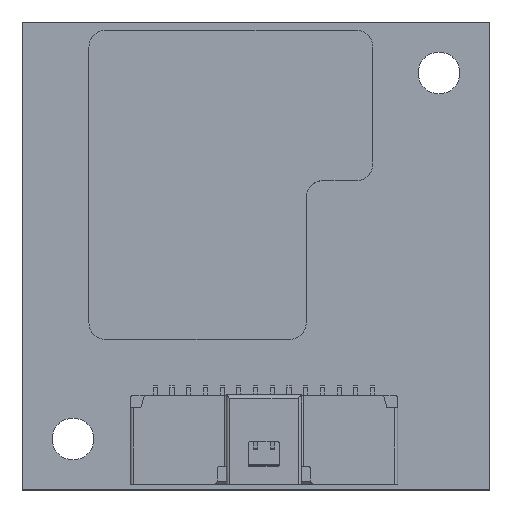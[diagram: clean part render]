
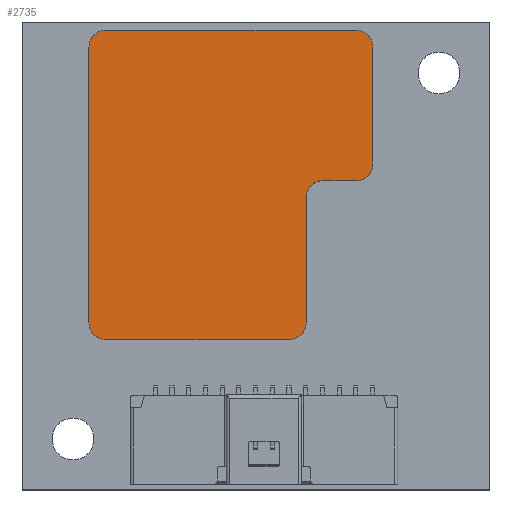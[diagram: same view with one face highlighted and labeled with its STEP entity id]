
A CAD part, top view. The second image highlights one B-rep face of the part: STEP entity #2735.
In plain terms, the highlighted planar face has unit normal (0, 0, 1).
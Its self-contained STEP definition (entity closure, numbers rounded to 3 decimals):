
#166 = CARTESIAN_POINT ( 'NONE',  ( -21.5, 26., 1.4 ) ) ;
#308 = CARTESIAN_POINT ( 'NONE',  ( -8.5, 16., 1.4 ) ) ;
#1109 = CARTESIAN_POINT ( 'NONE',  ( -8.5, 17., 1.4 ) ) ;
#1260 = AXIS2_PLACEMENT_3D ( 'NONE', #9854, #21824, #16524 ) ;
#1344 = AXIS2_PLACEMENT_3D ( 'NONE', #4643, #13028, #18270 ) ;
#1451 = ORIENTED_EDGE ( 'NONE', *, *, #12410, .T. ) ;
#1463 = ORIENTED_EDGE ( 'NONE', *, *, #18852, .T. ) ;
#1765 = DIRECTION ( 'NONE',  ( 0., 0., 1. ) ) ;
#2072 = CIRCLE ( 'NONE', #1344, 1. ) ;
#2282 = CARTESIAN_POINT ( 'NONE',  ( -9.5, 16., 1.4 ) ) ;
#2461 = DIRECTION ( 'NONE',  ( 1., 0., 0. ) ) ;
#2474 = DIRECTION ( 'NONE',  ( 1., 0., 0. ) ) ;
#2586 = DIRECTION ( 'NONE',  ( 0., 0., 1. ) ) ;
#2735 = ADVANCED_FACE ( 'NONE', ( #6196 ), #4394, .T. ) ;
#3442 = CARTESIAN_POINT ( 'NONE',  ( -10.5, 7.5, 1.4 ) ) ;
#3871 = CARTESIAN_POINT ( 'NONE',  ( -22.5, 7.5, 1.4 ) ) ;
#3968 = CARTESIAN_POINT ( 'NONE',  ( -5.5, 17., 1.4 ) ) ;
#4270 = CARTESIAN_POINT ( 'NONE',  ( 0., 0., 1.4 ) ) ;
#4394 = PLANE ( 'NONE',  #12141 ) ;
#4643 = CARTESIAN_POINT ( 'NONE',  ( -21.5, 8.5, 1.4 ) ) ;
#4679 = DIRECTION ( 'NONE',  ( 1., 0., 0. ) ) ;
#4781 = ORIENTED_EDGE ( 'NONE', *, *, #18940, .T. ) ;
#4987 = VERTEX_POINT ( 'NONE', #14453 ) ;
#5133 = LINE ( 'NONE', #9868, #6413 ) ;
#5781 = ORIENTED_EDGE ( 'NONE', *, *, #19628, .T. ) ;
#6196 = FACE_OUTER_BOUND ( 'NONE', #16120, .T. ) ;
#6199 = DIRECTION ( 'NONE',  ( 0., -1., 0. ) ) ;
#6391 = EDGE_CURVE ( 'NONE', #15720, #6953, #10362, .T. ) ;
#6413 = VECTOR ( 'NONE', #10293, 1000. ) ;
#6554 = ORIENTED_EDGE ( 'NONE', *, *, #21668, .T. ) ;
#6881 = VERTEX_POINT ( 'NONE', #1109 ) ;
#6953 = VERTEX_POINT ( 'NONE', #20000 ) ;
#7034 = EDGE_CURVE ( 'NONE', #18107, #21703, #8493, .T. ) ;
#7475 = CARTESIAN_POINT ( 'NONE',  ( -5.5, 26., 1.4 ) ) ;
#7691 = CIRCLE ( 'NONE', #1260, 1. ) ;
#7726 = ORIENTED_EDGE ( 'NONE', *, *, #14242, .T. ) ;
#7748 = VECTOR ( 'NONE', #10817, 1000. ) ;
#8012 = VERTEX_POINT ( 'NONE', #19586 ) ;
#8135 = DIRECTION ( 'NONE',  ( 1., 0., 0. ) ) ;
#8493 = CIRCLE ( 'NONE', #13595, 1. ) ;
#8575 = VERTEX_POINT ( 'NONE', #166 ) ;
#8589 = ORIENTED_EDGE ( 'NONE', *, *, #7034, .T. ) ;
#8885 = CARTESIAN_POINT ( 'NONE',  ( -9.5, 7.5, 1.4 ) ) ;
#9022 = AXIS2_PLACEMENT_3D ( 'NONE', #308, #14351, #21112 ) ;
#9029 = VERTEX_POINT ( 'NONE', #14512 ) ;
#9445 = ORIENTED_EDGE ( 'NONE', *, *, #16083, .T. ) ;
#9854 = CARTESIAN_POINT ( 'NONE',  ( -6.5, 18., 1.4 ) ) ;
#9868 = CARTESIAN_POINT ( 'NONE',  ( -9.5, 17., 1.4 ) ) ;
#10075 = CARTESIAN_POINT ( 'NONE',  ( -6.5, 25., 1.4 ) ) ;
#10150 = ORIENTED_EDGE ( 'NONE', *, *, #16111, .T. ) ;
#10293 = DIRECTION ( 'NONE',  ( 1., 0., 0. ) ) ;
#10362 = LINE ( 'NONE', #3968, #7748 ) ;
#10718 = VECTOR ( 'NONE', #6199, 1000. ) ;
#10721 = DIRECTION ( 'NONE',  ( -1., 0., 0. ) ) ;
#10817 = DIRECTION ( 'NONE',  ( 0., 1., 0. ) ) ;
#11465 = ORIENTED_EDGE ( 'NONE', *, *, #12836, .T. ) ;
#11516 = CARTESIAN_POINT ( 'NONE',  ( -9.5, 8.5, 1.4 ) ) ;
#11753 = CARTESIAN_POINT ( 'NONE',  ( -5.5, 18., 1.4 ) ) ;
#11929 = CARTESIAN_POINT ( 'NONE',  ( -6.5, 17., 1.4 ) ) ;
#12141 = AXIS2_PLACEMENT_3D ( 'NONE', #4270, #19856, #16432 ) ;
#12296 = LINE ( 'NONE', #8885, #19361 ) ;
#12410 = EDGE_CURVE ( 'NONE', #6953, #8012, #17372, .T. ) ;
#12544 = LINE ( 'NONE', #3871, #14196 ) ;
#12809 = VERTEX_POINT ( 'NONE', #15243 ) ;
#12836 = EDGE_CURVE ( 'NONE', #4987, #18107, #12544, .T. ) ;
#13028 = DIRECTION ( 'NONE',  ( 0., 0., 1. ) ) ;
#13276 = DIRECTION ( 'NONE',  ( 0., 0., 1. ) ) ;
#13304 = CARTESIAN_POINT ( 'NONE',  ( -22.5, 26., 1.4 ) ) ;
#13595 = AXIS2_PLACEMENT_3D ( 'NONE', #17038, #1765, #8135 ) ;
#13809 = AXIS2_PLACEMENT_3D ( 'NONE', #10075, #13276, #4679 ) ;
#14193 = ORIENTED_EDGE ( 'NONE', *, *, #16882, .T. ) ;
#14196 = VECTOR ( 'NONE', #2461, 1000. ) ;
#14242 = EDGE_CURVE ( 'NONE', #12809, #4987, #2072, .T. ) ;
#14351 = DIRECTION ( 'NONE',  ( 0., 0., -1. ) ) ;
#14359 = CARTESIAN_POINT ( 'NONE',  ( -21.5, 25., 1.4 ) ) ;
#14453 = CARTESIAN_POINT ( 'NONE',  ( -21.5, 7.5, 1.4 ) ) ;
#14512 = CARTESIAN_POINT ( 'NONE',  ( -22.5, 25., 1.4 ) ) ;
#15185 = VECTOR ( 'NONE', #10721, 1000. ) ;
#15243 = CARTESIAN_POINT ( 'NONE',  ( -22.5, 8.5, 1.4 ) ) ;
#15497 = LINE ( 'NONE', #13304, #10718 ) ;
#15587 = LINE ( 'NONE', #7475, #15185 ) ;
#15720 = VERTEX_POINT ( 'NONE', #11753 ) ;
#15775 = DIRECTION ( 'NONE',  ( 0., 1., 0. ) ) ;
#16083 = EDGE_CURVE ( 'NONE', #8012, #8575, #15587, .T. ) ;
#16111 = EDGE_CURVE ( 'NONE', #19015, #6881, #20511, .T. ) ;
#16120 = EDGE_LOOP ( 'NONE', ( #9445, #6554, #1463, #7726, #11465, #8589, #5781, #10150, #4781, #14193, #18022, #1451 ) ) ;
#16432 = DIRECTION ( 'NONE',  ( 1., 0., 0. ) ) ;
#16524 = DIRECTION ( 'NONE',  ( 1., 0., 0. ) ) ;
#16882 = EDGE_CURVE ( 'NONE', #17561, #15720, #7691, .T. ) ;
#17038 = CARTESIAN_POINT ( 'NONE',  ( -10.5, 8.5, 1.4 ) ) ;
#17372 = CIRCLE ( 'NONE', #13809, 1. ) ;
#17561 = VERTEX_POINT ( 'NONE', #11929 ) ;
#18022 = ORIENTED_EDGE ( 'NONE', *, *, #6391, .T. ) ;
#18107 = VERTEX_POINT ( 'NONE', #3442 ) ;
#18112 = CIRCLE ( 'NONE', #19497, 1. ) ;
#18270 = DIRECTION ( 'NONE',  ( 1., 0., 0. ) ) ;
#18852 = EDGE_CURVE ( 'NONE', #9029, #12809, #15497, .T. ) ;
#18940 = EDGE_CURVE ( 'NONE', #6881, #17561, #5133, .T. ) ;
#19015 = VERTEX_POINT ( 'NONE', #2282 ) ;
#19361 = VECTOR ( 'NONE', #15775, 1000. ) ;
#19497 = AXIS2_PLACEMENT_3D ( 'NONE', #14359, #2586, #2474 ) ;
#19586 = CARTESIAN_POINT ( 'NONE',  ( -6.5, 26., 1.4 ) ) ;
#19628 = EDGE_CURVE ( 'NONE', #21703, #19015, #12296, .T. ) ;
#19856 = DIRECTION ( 'NONE',  ( 0., 0., 1. ) ) ;
#20000 = CARTESIAN_POINT ( 'NONE',  ( -5.5, 25., 1.4 ) ) ;
#20511 = CIRCLE ( 'NONE', #9022, 1. ) ;
#21112 = DIRECTION ( 'NONE',  ( 1., 0., 0. ) ) ;
#21668 = EDGE_CURVE ( 'NONE', #8575, #9029, #18112, .T. ) ;
#21703 = VERTEX_POINT ( 'NONE', #11516 ) ;
#21824 = DIRECTION ( 'NONE',  ( 0., 0., 1. ) ) ;
